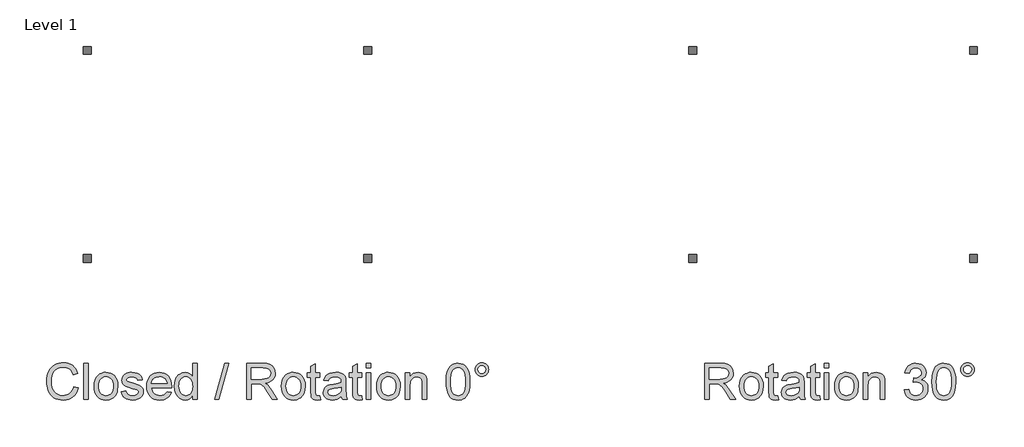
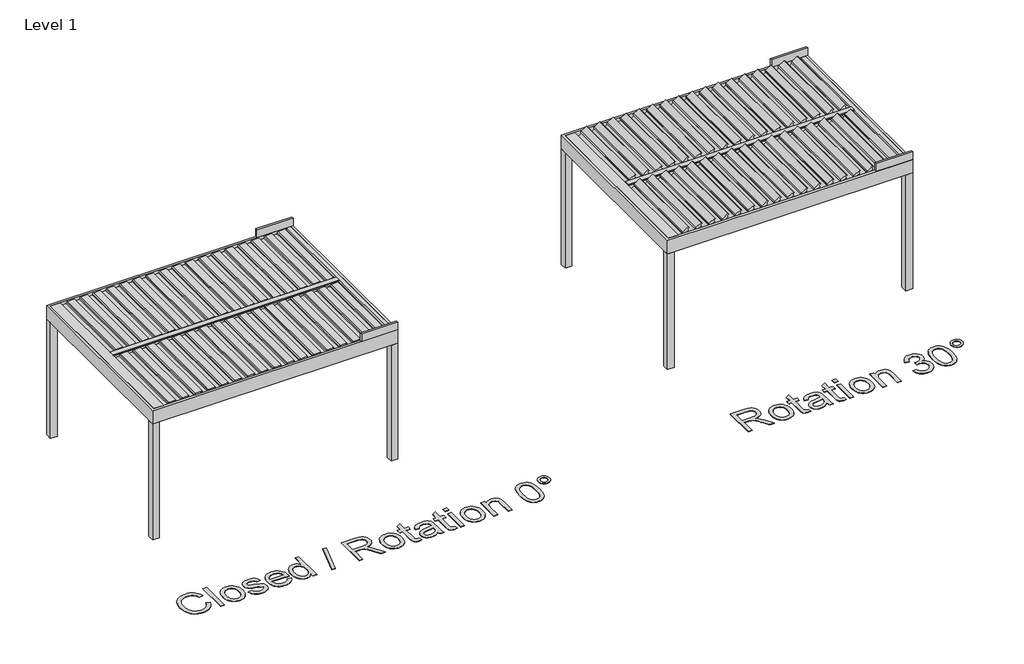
# One storey, part 34 of 47: 4 proxies.
"""IFC4 building model written with IfcOpenShell, lengths in millimetres."""

from ifc_helpers import new_model, si_unit, origin, origin_with_axes, place, context, project, spatial, polyline, outline, extrude, transform, mapped, element, save
from components import generic_models_7727c5ff, generic_models_2351d9f3

model = new_model("IFC4")

# Units and contexts
model_context = context("Model", 3, world=origin())
ifc_project = project(units=[si_unit("LENGTHUNIT", "METRE", prefix="MILLI")], contexts=[model_context])

# Site, building, storey
site = spatial("IfcSite", under=ifc_project)
building = spatial("IfcBuilding", under=site)
storey = spatial("IfcBuildingStorey", under=building, Name="Level 1", Elevation=0.0)

# Proxies
placement = place(None, origin())
generic_models_shape = generic_models_7727c5ff(model_context)
element("IfcBuildingElementProxy", 1, Name="Renson_Algarve_Single Unit With Intermediate Beam : Algarve - Single Unit With Intermediate Beam", ObjectType="Renson_Algarve_Single Unit With Intermediate Beam : Algarve - Single Unit With Intermediate Beam", at=placement, inside=storey, context=model_context, shape_type="MappedRepresentation", body=[
    mapped(generic_models_shape, transform((76532.7944478, 68278.5861401, 0.0), x_axis=(1.0, 0.0, 0.0), y_axis=(0.0, 1.0, 0.0), z_axis=(0.0, 0.0, 1.0))),
])
generic_models_2_shape = generic_models_2351d9f3(model_context)
element("IfcBuildingElementProxy", 2, Name="Renson_Algarve_Single Unit With Intermediate Beam : Algarve - Single Unit With Intermediate Beam", ObjectType="Renson_Algarve_Single Unit With Intermediate Beam : Algarve - Single Unit With Intermediate Beam", at=placement, inside=storey, context=model_context, shape_type="MappedRepresentation", body=[
    mapped(generic_models_2_shape, transform((84932.7944478, 68278.5861401, 0.0), x_axis=(1.0, 0.0, 0.0), y_axis=(0.0, 1.0, 0.0), z_axis=(0.0, 0.0, 1.0))),
])
element("IfcBuildingElementProxy", 3, Name="500mm Arial", ObjectType="500mm Arial", at=placement, inside=storey, context=model_context, shape_type="SweptSolid", body=[
    extrude(outline(polyline([(74402.351282, 64307.1315351), (74465.1364758, 64290.9447273), (74452.7127943, 64251.8994185), (74436.1657687, 64217.7821955), (74415.4953991, 64188.5930585), (74390.7016855, 64164.3320073), (74362.344115, 64145.2596251), (74330.9821749, 64131.636495), (74296.6158652, 64123.4626169), (74259.2451859, 64120.7379909), (74220.9586337, 64122.7996629), (74186.4198792, 64128.984679), (74155.6289227, 64139.293039), (74128.5857639, 64153.7247431), (74104.9186889, 64172.0651934), (74084.2559835, 64194.0997921), (74066.5976477, 64219.8285391), (74051.9436816, 64249.2514346), (74040.4358729, 64281.0962198), (74032.2160096, 64314.0906362), (74027.2840916, 64348.2346839), (74025.6401189, 64383.5283628), (74027.4986894, 64421.3972157), (74033.0744009, 64456.7675367), (74042.3672534, 64489.6393258), (74055.3772469, 64520.012583), (74071.8131414, 64547.3853027), (74091.3836972, 64571.2554792), (74114.0889141, 64591.6231126), (74139.9287921, 64608.4882028), (74168.0257795, 64621.7127941), (74197.5023244, 64631.1589308), (74228.3584267, 64636.8266128), (74260.5940865, 64638.7158401), (74296.5047342, 64636.2709577), (74329.4340049, 64628.9363104), (74359.3818985, 64616.7118983), (74386.3484152, 64599.5977213), (74409.8890308, 64578.0459677), (74429.5592212, 64552.5088259), (74445.3589865, 64522.9862958), (74457.2883266, 64489.4783774), (74394.5031328, 64474.5178429), (74384.6163042, 64499.2080898), (74372.7367814, 64520.3038229), (74358.8645645, 64537.8050424), (74342.9996534, 64551.7117483), (74325.0500778, 64562.3075161), (74304.9238669, 64569.8759218), (74282.621021, 64574.4169651), (74258.1415399, 64575.9306463), (74229.9755746, 64574.2521847), (74204.2161708, 64569.2167999), (74180.8633283, 64560.8244918), (74159.9170472, 64549.0752606), (74141.6417426, 64534.4979366), (74126.3018299, 64517.62135), (74113.8973088, 64498.445501), (74104.4281796, 64476.9703896), (74092.4260295, 64431.015797), (74088.4253128, 64383.6509901), (74093.1617935, 64325.6482622), (74107.3712355, 64275.4936835), (74118.1624407, 64253.8384632), (74131.5901336, 64235.1033062), (74147.654314, 64219.2882125), (74166.3549821, 64206.3931821), (74208.0329465, 64189.2406841), (74252.991192, 64183.5231847), (74280.2872696, 64185.4698936), (74305.3990479, 64191.3100203), (74328.3265268, 64201.0435648), (74349.0697064, 64214.670527), (74367.1380773, 64232.1295934), (74382.0411302, 64253.3594502), (74393.7788651, 64278.3600974), (74402.351282, 64307.1315351)])), origin_with_axes(), (0.0, 0.0, 1.0), 5.0),
    extrude(outline(polyline([(74543.6179681, 64128.5861401), (74543.6179681, 64630.8676909), (74606.403162, 64630.8676909), (74606.403162, 64128.5861401), (74543.6179681, 64128.5861401)])), origin_with_axes(), (0.0, 0.0, 1.0), 5.0),
    extrude(outline(polyline([(74684.8846543, 64313.0176471), (74688.2798985, 64360.788657), (74698.4656313, 64401.9531194), (74715.4418525, 64436.5110343), (74739.2085623, 64464.4624017), (74763.1362204, 64482.3276711), (74789.5470819, 64495.0885778), (74818.441147, 64502.7451219), (74849.8184155, 64505.2973032), (74884.4568046, 64502.1894668), (74915.7765915, 64492.8659574), (74943.7777763, 64477.3267753), (74968.4603589, 64455.5719202), (74988.6057303, 64428.3371562), (75002.9952812, 64396.3582474), (75011.6290118, 64359.6351936), (75014.506922, 64318.167995), (75009.4178877, 64254.7390076), (75003.0565949, 64228.7036923), (74994.1507849, 64206.4544958), (74982.8115888, 64187.2364936), (74969.1501377, 64170.2947613), (74953.1664314, 64155.6292989), (74934.86047, 64143.2401063), (74894.1328675, 64126.3635197), (74849.8184155, 64120.7379909), (74814.6741886, 64123.834331), (74783.0631618, 64133.1233514), (74754.9853349, 64148.605052), (74730.440708, 64170.2794329), (74710.5099345, 64197.7786121), (74696.2736677, 64230.7347075), (74687.7319077, 64269.1477191), (74684.8846543, 64313.0176471)]), holes=[polyline([(74747.6698481, 64313.1402744), (74749.4862655, 64282.686543), (74754.9355175, 64256.3178345), (74764.0176043, 64234.0341491), (74776.7325258, 64215.8354867), (74792.198898, 64201.6988546), (74809.535337, 64191.6012602), (74828.7418428, 64185.5427036), (74849.8184155, 64183.5231847), (74870.7876892, 64185.5541999), (74889.9175529, 64191.6472455), (74907.2080067, 64201.8023214), (74922.6590505, 64216.0194277), (74935.373972, 64234.398199), (74944.4560587, 64257.0382701), (74949.9053108, 64283.939641), (74951.7217281, 64315.1023117), (74949.8938145, 64344.5903529), (74944.4100735, 64370.2692825), (74935.2705052, 64392.1391007), (74922.4751095, 64410.1998074), (74906.9665842, 64424.3364395), (74889.6876267, 64434.4340339), (74870.6382371, 64440.4925905), (74849.8184155, 64442.5121094), (74828.7418428, 64440.5002547), (74809.535337, 64434.4646907), (74792.198898, 64424.4054174), (74776.7325258, 64410.3224348), (74764.0176043, 64392.1774218), (74754.9355175, 64369.9320574), (74749.4862655, 64343.5863416), (74747.6698481, 64313.1402744)])]), origin_with_axes(), (0.0, 0.0, 1.0), 5.0),
    extrude(outline(polyline([(75061.5958174, 64238.4602294), (75124.3810112, 64246.3083786), (75134.2831682, 64219.4529929), (75153.4436888, 64199.7099925), (75181.9852003, 64187.5698867), (75220.0303299, 64183.5231847), (75257.6156071, 64187.2326615), (75284.0417971, 64198.3610919), (75299.6767819, 64214.486586), (75304.8884435, 64233.1872541), (75299.6461251, 64249.1901209), (75283.9191698, 64261.3915404), (75219.294566, 64279.2951308), (75161.9969452, 64295.865149), (75124.7488932, 64310.0132774), (75100.8212351, 64325.4489928), (75083.4847961, 64345.881772), (75072.954174, 64370.0086995), (75069.4439666, 64396.52686), (75072.2643952, 64420.8530569), (75080.7256811, 64443.309187), (75094.0614034, 64463.0062022), (75111.5051414, 64479.0550542), (75128.8415804, 64489.1564807), (75151.4203378, 64497.633095), (75177.5246311, 64503.3812511), (75205.4376775, 64505.2973032), (75246.3032358, 64502.2162915), (75281.8345051, 64492.9732564), (75310.4066734, 64478.4725744), (75330.3949285, 64459.6186221), (75343.6386803, 64435.0165137), (75351.9773389, 64403.2713632), (75289.192145, 64395.423214), (75281.2673537, 64415.1815428), (75265.5863837, 64430.0654352), (75241.9959507, 64439.4004408), (75210.3427707, 64442.5121094), (75174.2903352, 64439.5383966), (75150.2553782, 64430.6172582), (75136.7357149, 64417.7413883), (75132.2291604, 64402.9034812), (75134.0992272, 64393.2465788), (75139.7094277, 64384.6320088), (75149.3050164, 64376.9371437), (75163.131248, 64370.7751203), (75217.2099013, 64357.4087411), (75309.3643411, 64327.8555542), (75333.7058665, 64313.7227542), (75352.1612799, 64294.3782926), (75363.795548, 64269.7608558), (75367.6736373, 64239.80913), (75363.1210977, 64208.8457287), (75349.4634786, 64179.7217375), (75327.2219463, 64154.7210902), (75296.9176669, 64136.127721), (75260.3134084, 64124.5854234), (75219.1719386, 64120.7379909), (75185.3804445, 64122.5927293), (75155.8655786, 64128.1569445), (75130.6273409, 64137.4306364), (75109.6657314, 64150.4138052), (75092.5438902, 64167.045137), (75078.8249575, 64187.2633184), (75068.5089332, 64211.0683491), (75061.5958174, 64238.4602294)])), origin_with_axes(), (0.0, 0.0, 1.0), 5.0),
    extrude(outline(polyline([(75696.560141, 64238.4602294), (75758.1190616, 64230.6120801), (75748.6805891, 64205.9563222), (75735.9388429, 64184.2282919), (75719.893823, 64165.4279891), (75700.5455293, 64149.5554139), (75678.0932313, 64136.9477913), (75652.7361984, 64127.9423466), (75624.4744305, 64122.5390798), (75593.3079277, 64120.7379909), (75554.3507573, 64123.8458273), (75519.6395582, 64133.1693367), (75489.1743305, 64148.7085189), (75462.9550741, 64170.4633739), (75441.8708372, 64197.8284294), (75426.8106681, 64230.1982129), (75417.7745666, 64267.5727243), (75414.7625327, 64309.9519638), (75417.8052234, 64353.7682422), (75426.9332954, 64392.3881875), (75442.1467487, 64425.8117996), (75463.4455834, 64454.0390785), (75489.5958619, 64476.4645518), (75519.3636467, 64492.482747), (75552.7489378, 64502.0936642), (75589.7517351, 64505.2973032), (75625.5627481, 64502.1013284), (75657.94786, 64492.5134039), (75686.9070708, 64476.5335297), (75712.4403805, 64454.1617059), (75733.2831948, 64425.9957406), (75748.1709193, 64392.6334422), (75757.103554, 64354.0748106), (75760.0810989, 64310.3198458), (75759.7132169, 64293.397274), (75477.5477266, 64293.397274), (75481.1843934, 64268.3429773), (75488.4155738, 64246.4003491), (75499.241268, 64227.5693895), (75513.6614758, 64211.8500984), (75530.8791196, 64199.4570737), (75550.0971217, 64190.6049132), (75571.3154822, 64185.2936169), (75594.534201, 64183.5231847), (75627.9501489, 64186.8034659), (75656.0931216, 64196.6443092), (75678.9631189, 64213.6588515), (75696.560141, 64238.4602294)]), holes=[polyline([(75477.5477266, 64356.1824678), (75697.295905, 64356.1824678), (75688.8039623, 64389.353161), (75672.157302, 64413.0815497), (75655.0354608, 64425.9574196), (75635.5530435, 64435.1544694), (75613.71005, 64440.6726994), (75589.5064804, 64442.5121094), (75547.1847226, 64436.6413258), (75528.7714623, 64429.3028465), (75512.1899478, 64419.0289753), (75498.2755777, 64406.2948933), (75487.8637509, 64391.5757814), (75480.9544671, 64374.8716396), (75477.5477266, 64356.1824678)])]), origin_with_axes(), (0.0, 0.0, 1.0), 5.0),
    extrude(outline(polyline([(76050.4626204, 64128.5861401), (76050.4626204, 64187.8151414), (76031.677646, 64158.468888), (76008.9226118, 64137.5072785), (75982.1975177, 64124.9303128), (75951.5023637, 64120.7379909), (75910.9127169, 64126.8080438), (75873.7566354, 64145.0182026), (75842.3027248, 64174.0962086), (75818.8195908, 64212.7698034), (75804.1962815, 64259.4754883), (75799.321845, 64312.6497651), (75803.813071, 64365.1649199), (75817.2867491, 64412.5910404), (75827.3881756, 64433.7212625), (75839.7275508, 64452.2303254), (75854.3048749, 64468.1182291), (75871.1201477, 64481.3849735), (75909.0886353, 64499.3192208), (75951.257109, 64505.2973032), (75981.9752556, 64501.020675), (76009.1372096, 64488.1907904), (76032.1604911, 64468.5244321), (76050.4626204, 64443.7383827), (76050.4626204, 64630.8676909), (76113.2478142, 64630.8676909), (76113.2478142, 64128.5861401), (76050.4626204, 64128.5861401)]), holes=[polyline([(75862.1070389, 64312.8950197), (75863.877471, 64282.4489525), (75869.1887673, 64256.1032367), (75878.0409278, 64233.8578723), (75890.4339525, 64215.7128593), (75905.2335386, 64201.6298767), (75921.3053833, 64191.5706034), (75938.6494865, 64185.5350394), (75957.2658483, 64183.5231847), (75975.9703485, 64185.4430689), (75993.2109849, 64191.2027214), (76008.9877575, 64200.8021422), (76023.3006664, 64214.2413313), (76035.1840213, 64231.6275877), (76043.6721319, 64253.0682103), (76048.7649983, 64278.5631989), (76050.4626204, 64308.1125538), (76048.7343414, 64340.509162), (76043.5495046, 64368.2919168), (76034.9081098, 64391.4608183), (76022.8101571, 64410.0158664), (76008.1830157, 64424.2329727), (75991.9540547, 64434.3880486), (75974.1232743, 64440.4810942), (75954.6906743, 64442.5121094), (75935.7064305, 64440.5615684), (75918.3623273, 64434.7099454), (75902.6583646, 64424.9572404), (75888.5945425, 64411.3034534), (75877.0062597, 64393.4496804), (75868.7289148, 64371.097017), (75863.7625078, 64344.2454635), (75862.1070389, 64312.8950197)])]), origin_with_axes(), (0.0, 0.0, 1.0), 5.0),
    extrude(outline(polyline([(76356.5404404, 64128.5861401), (76497.8071265, 64630.8676909), (76554.4609538, 64630.8676909), (76413.1942676, 64128.5861401), (76356.5404404, 64128.5861401)])), origin_with_axes(), (0.0, 0.0, 1.0), 5.0),
    extrude(outline(polyline([(76803.8849465, 64128.5861401), (76803.8849465, 64630.8676909), (77020.322187, 64630.8676909), (77078.4935275, 64627.4801108), (77120.8152854, 64617.3173707), (77151.7480298, 64598.555389), (77175.75233, 64569.370084), (77191.1573885, 64533.1796927), (77196.292408, 64493.402452), (77194.1655903, 64467.6047271), (77187.7851369, 64443.9223237), (77177.151048, 64422.3552417), (77162.2633235, 64402.9034812), (77142.9303582, 64386.187843), (77118.960547, 64372.8291281), (77090.3538897, 64362.8273364), (77057.1103865, 64356.1824678), (77077.8037488, 64342.6628045), (77092.7949401, 64329.3270822), (77143.6852827, 64264.7024784), (77227.4397503, 64128.5861401), (77154.4764879, 64128.5861401), (77089.1161201, 64232.6967448), (77041.9045974, 64301.6133052), (77024.3535605, 64321.7088592), (77008.7339042, 64334.1708618), (76978.8741489, 64346.1270266), (76942.4538314, 64348.3343186), (76866.6701404, 64348.3343186), (76866.6701404, 64128.5861401), (76803.8849465, 64128.5861401)]), holes=[polyline([(76866.6701404, 64411.1195124), (77007.2010625, 64411.1195124), (77047.5607831, 64413.3421328), (77078.8767379, 64420.009994), (77102.4518424, 64431.56762), (77119.589012, 64448.4595349), (77130.0276637, 64468.8923141), (77133.5072142, 64491.0725327), (77131.8479131, 64507.129049), (77126.8700099, 64521.6987088), (77118.5735045, 64534.7815123), (77106.9583969, 64546.3774593), (77091.7564398, 64555.8734133), (77072.6993861, 64562.6562376), (77023.0199883, 64568.082497), (76866.6701404, 64568.082497), (76866.6701404, 64411.1195124)])]), origin_with_axes(), (0.0, 0.0, 1.0), 5.0),
    extrude(outline(polyline([(77282.6220496, 64313.0176471), (77286.0172938, 64360.788657), (77296.2030266, 64401.9531194), (77313.1792478, 64436.5110343), (77336.9459575, 64464.4624017), (77360.8736156, 64482.3276711), (77387.2844772, 64495.0885778), (77416.1785422, 64502.7451219), (77447.5558107, 64505.2973032), (77482.1941999, 64502.1894668), (77513.5139868, 64492.8659574), (77541.5151716, 64477.3267753), (77566.1977542, 64455.5719202), (77586.3431255, 64428.3371562), (77600.7326765, 64396.3582474), (77609.3664071, 64359.6351936), (77612.2443173, 64318.167995), (77607.155283, 64254.7390076), (77600.7939902, 64228.7036923), (77591.8881802, 64206.4544958), (77580.5489841, 64187.2364936), (77566.8875329, 64170.2947613), (77550.9038267, 64155.6292989), (77532.5978653, 64143.2401063), (77491.8702627, 64126.3635197), (77447.5558107, 64120.7379909), (77412.4115839, 64123.834331), (77380.800557, 64133.1233514), (77352.7227302, 64148.605052), (77328.1781033, 64170.2794329), (77308.2473298, 64197.7786121), (77294.011063, 64230.7347075), (77285.4693029, 64269.1477191), (77282.6220496, 64313.0176471)]), holes=[polyline([(77345.4072434, 64313.1402744), (77347.2236608, 64282.686543), (77352.6729128, 64256.3178345), (77361.7549996, 64234.0341491), (77374.469921, 64215.8354867), (77389.9362932, 64201.6988546), (77407.2727323, 64191.6012602), (77426.4792381, 64185.5427036), (77447.5558107, 64183.5231847), (77468.5250845, 64185.5541999), (77487.6549482, 64191.6472455), (77504.945402, 64201.8023214), (77520.3964458, 64216.0194277), (77533.1113672, 64234.398199), (77542.193454, 64257.0382701), (77547.6427061, 64283.939641), (77549.4591234, 64315.1023117), (77547.6312097, 64344.5903529), (77542.1474688, 64370.2692825), (77533.0079004, 64392.1391007), (77520.2125048, 64410.1998074), (77504.7039794, 64424.3364395), (77487.425022, 64434.4340339), (77468.3756324, 64440.4925905), (77447.5558107, 64442.5121094), (77426.4792381, 64440.5002547), (77407.2727323, 64434.4646907), (77389.9362932, 64424.4054174), (77374.469921, 64410.3224348), (77361.7549996, 64392.1774218), (77352.6729128, 64369.9320574), (77347.2236608, 64343.5863416), (77345.4072434, 64313.1402744)])]), origin_with_axes(), (0.0, 0.0, 1.0), 5.0),
    extrude(outline(polyline([(77816.2961972, 64180.9480108), (77824.1443465, 64126.7467302), (77777.1780784, 64120.7379909), (77747.0424116, 64123.3438217), (77724.5709531, 64131.1613141), (77708.6907137, 64143.2094494), (77698.3287041, 64158.5072091), (77692.6265332, 64184.7801149), (77690.7258096, 64229.7536888), (77690.7258096, 64434.6639601), (77643.6369142, 64434.6639601), (77643.6369142, 64497.449154), (77690.7258096, 64497.449154), (77690.7258096, 64587.0897335), (77753.5110034, 64624.0005603), (77753.5110034, 64497.449154), (77816.2961972, 64497.449154), (77816.2961972, 64434.6639601), (77753.5110034, 64434.6639601), (77753.5110034, 64231.5930988), (77756.8219414, 64199.2194832), (77767.5518329, 64187.7538277), (77788.9503023, 64183.5231847), (77816.2961972, 64180.9480108)])), origin_with_axes(), (0.0, 0.0, 1.0), 5.0),
    extrude(outline(polyline([(78114.525868, 64175.6750355), (78084.528157, 64149.9539527), (78053.6413978, 64133.1233514), (78021.1604833, 64123.834331), (77986.3803063, 64120.7379909), (77958.4251068, 64122.6003935), (77933.9111368, 64128.1876013), (77912.8383962, 64137.4996143), (77895.2068852, 64150.5364325), (77881.284851, 64166.4703214), (77871.3405408, 64184.4735466), (77865.3739547, 64204.5461079), (77863.3850926, 64226.6880055), (77866.3894623, 64252.7156567), (77875.4025711, 64276.3520749), (77889.3054449, 64296.5855846), (77906.9791091, 64312.4045104), (77927.7491134, 64324.3606752), (77950.9410075, 64333.0059021), (78005.2649154, 64342.4482067), (78069.4603236, 64352.3810205), (78114.157986, 64364.030617), (78114.525868, 64378.0101329), (78110.2032546, 64406.0304782), (78097.2354142, 64424.3632643), (78084.160275, 64432.303384), (78068.2340503, 64437.9748981), (78027.8283445, 64442.5121094), (77990.4270083, 64439.4924113), (77964.3073866, 64430.4333172), (77946.4957667, 64413.679358), (77934.0184357, 64387.5750647), (77871.2332419, 64395.423214), (77882.131746, 64429.7588669), (77898.3951958, 64456.7368798), (77921.5411047, 64477.3689284), (77953.0869858, 64492.666688), (77991.66861, 64502.1396494), (78035.9217484, 64505.2973032), (78078.3661336, 64502.5075314), (78112.0120077, 64494.138216), (78137.3805369, 64481.5535861), (78154.9928875, 64466.1178707), (78166.6731408, 64447.0339922), (78174.2453785, 64423.5048729), (78177.3110618, 64368.5678283), (78177.3110618, 64290.454218), (78180.4993725, 64181.3772064), (78185.2205247, 64154.4145219), (78193.0073603, 64128.5861401), (78130.2221665, 64128.5861401), (78120.1667253, 64150.4138052), (78114.525868, 64175.6750355)]), holes=[polyline([(78114.525868, 64301.2454232), (78072.3420659, 64290.7914432), (78013.235692, 64281.9929321), (77959.2183524, 64271.8148636), (77945.1621945, 64264.8557625), (77934.7541997, 64255.2601738), (77928.3162648, 64243.7638615), (77926.1702865, 64231.1025895), (77930.8454535, 64212.4325782), (77944.8709546, 64197.1348186), (77967.9402213, 64186.9260932), (77999.7466855, 64183.5231847), (78033.4692017, 64187.2786468), (78063.2676433, 64198.5450329), (78087.4252277, 64215.1457079), (78104.2251721, 64234.9040367), (78111.6747825, 64255.2601738), (78114.157986, 64283.4644601), (78114.525868, 64301.2454232)])]), origin_with_axes(), (0.0, 0.0, 1.0), 5.0),
    extrude(outline(polyline([(78397.0592403, 64180.9480108), (78404.9073895, 64126.7467302), (78357.9411215, 64120.7379909), (78327.8054547, 64123.3438217), (78305.3339962, 64131.1613141), (78289.4537567, 64143.2094494), (78279.0917472, 64158.5072091), (78273.3895762, 64184.7801149), (78271.4888526, 64229.7536888), (78271.4888526, 64434.6639601), (78224.3999572, 64434.6639601), (78224.3999572, 64497.449154), (78271.4888526, 64497.449154), (78271.4888526, 64587.0897335), (78334.2740465, 64624.0005603), (78334.2740465, 64497.449154), (78397.0592403, 64497.449154), (78397.0592403, 64434.6639601), (78334.2740465, 64434.6639601), (78334.2740465, 64231.5930988), (78337.5849844, 64199.2194832), (78348.3148759, 64187.7538277), (78369.7133453, 64183.5231847), (78397.0592403, 64180.9480108)])), origin_with_axes(), (0.0, 0.0, 1.0), 5.0),
    extrude(outline(polyline([(78459.8444341, 64568.082497), (78459.8444341, 64630.8676909), (78522.629628, 64630.8676909), (78522.629628, 64568.082497), (78459.8444341, 64568.082497)])), origin_with_axes(), (0.0, 0.0, 1.0), 5.0),
    extrude(outline(polyline([(78459.8444341, 64128.5861401), (78459.8444341, 64497.449154), (78522.629628, 64497.449154), (78522.629628, 64128.5861401), (78459.8444341, 64128.5861401)])), origin_with_axes(), (0.0, 0.0, 1.0), 5.0),
    extrude(outline(polyline([(78601.1111203, 64313.0176471), (78604.5063645, 64360.788657), (78614.6920973, 64401.9531194), (78631.6683185, 64436.5110343), (78655.4350282, 64464.4624017), (78679.3626863, 64482.3276711), (78705.7735479, 64495.0885778), (78734.667613, 64502.7451219), (78766.0448815, 64505.2973032), (78800.6832706, 64502.1894668), (78832.0030575, 64492.8659574), (78860.0042423, 64477.3267753), (78884.6868249, 64455.5719202), (78904.8321962, 64428.3371562), (78919.2217472, 64396.3582474), (78927.8554778, 64359.6351936), (78930.733388, 64318.167995), (78925.6443537, 64254.7390076), (78919.2830609, 64228.7036923), (78910.3772509, 64206.4544958), (78899.0380548, 64187.2364936), (78885.3766036, 64170.2947613), (78869.3928974, 64155.6292989), (78851.086936, 64143.2401063), (78810.3593335, 64126.3635197), (78766.0448815, 64120.7379909), (78730.9006546, 64123.834331), (78699.2896277, 64133.1233514), (78671.2118009, 64148.605052), (78646.667174, 64170.2794329), (78626.7364005, 64197.7786121), (78612.5001337, 64230.7347075), (78603.9583736, 64269.1477191), (78601.1111203, 64313.0176471)]), holes=[polyline([(78663.8963141, 64313.1402744), (78665.7127315, 64282.686543), (78671.1619835, 64256.3178345), (78680.2440703, 64234.0341491), (78692.9589917, 64215.8354867), (78708.425364, 64201.6988546), (78725.761803, 64191.6012602), (78744.9683088, 64185.5427036), (78766.0448815, 64183.5231847), (78787.0141552, 64185.5541999), (78806.1440189, 64191.6472455), (78823.4344727, 64201.8023214), (78838.8855165, 64216.0194277), (78851.600438, 64234.398199), (78860.6825247, 64257.0382701), (78866.1317768, 64283.939641), (78867.9481941, 64315.1023117), (78866.1202805, 64344.5903529), (78860.6365395, 64370.2692825), (78851.4969711, 64392.1391007), (78838.7015755, 64410.1998074), (78823.1930501, 64424.3364395), (78805.9140927, 64434.4340339), (78786.8647031, 64440.4925905), (78766.0448815, 64442.5121094), (78744.9683088, 64440.5002547), (78725.761803, 64434.4646907), (78708.425364, 64424.4054174), (78692.9589917, 64410.3224348), (78680.2440703, 64392.1774218), (78671.1619835, 64369.9320574), (78665.7127315, 64343.5863416), (78663.8963141, 64313.1402744)])]), origin_with_axes(), (0.0, 0.0, 1.0), 5.0),
    extrude(outline(polyline([(79001.366731, 64128.5861401), (79001.366731, 64497.449154), (79064.1519249, 64497.449154), (79064.1519249, 64445.9456746), (79085.9642615, 64471.9120121), (79112.1605253, 64490.4593961), (79142.7407161, 64501.5878264), (79177.7048341, 64505.2973032), (79208.6529069, 64502.308262), (79236.9951489, 64493.3411384), (79260.6315671, 64479.5149067), (79277.4621684, 64461.9485414), (79288.8818387, 64440.6880278), (79296.2854638, 64415.779351), (79299.5964018, 64355.0788218), (79299.5964018, 64128.5861401), (79236.811208, 64128.5861401), (79236.811208, 64346.6175359), (79235.0024548, 64379.083122), (79229.5761954, 64402.1677172), (79219.5667394, 64418.7070786), (79204.0083967, 64431.5369632), (79184.0661269, 64439.7683228), (79160.9048896, 64442.5121094), (79141.8401716, 64440.9716035), (79124.1320185, 64436.3500859), (79107.7804302, 64428.6475567), (79092.7854068, 64417.8640157), (79080.2582585, 64402.7731897), (79071.3102954, 64382.1488053), (79065.9415175, 64355.9908626), (79064.1519249, 64324.2993616), (79064.1519249, 64128.5861401), (79001.366731, 64128.5861401)])), origin_with_axes(), (0.0, 0.0, 1.0), 5.0),
    extrude(outline(polyline([(79566.4334756, 64375.6802136), (79571.047329, 64456.0777579), (79584.8888891, 64520.196524), (79595.2355702, 64546.3966198), (79607.8202001, 64569.0175304), (79622.6427788, 64588.0592558), (79639.7033063, 64603.5217959), (79659.0592642, 64615.485625), (79680.768134, 64624.0312171), (79704.8299158, 64629.1585724), (79731.2446095, 64630.8676909), (79769.9335326, 64626.8209889), (79804.5757538, 64614.6808831), (79833.546461, 64594.9225543), (79855.2208418, 64568.0211834), (79871.5915906, 64534.2066967), (79884.6514015, 64493.7090203), (79893.2046578, 64442.2821831), (79896.0557433, 64375.6802136), (79891.4878752, 64295.7425217), (79877.7842709, 64231.7770398), (79867.518064, 64205.5654476), (79854.9909156, 64182.9100481), (79840.2028258, 64163.8108412), (79823.1537946, 64148.2678269), (79803.7748441, 64136.2235236), (79781.9969964, 64127.6204499), (79757.8202515, 64122.4586057), (79731.2446095, 64120.7379909), (79696.6637019, 64123.7270321), (79666.006869, 64132.6941557), (79639.2741107, 64147.6393618), (79616.465427, 64168.5626503), (79594.5764483, 64206.3855179), (79578.9414635, 64253.5127343), (79569.5604726, 64309.9442995), (79566.4334756, 64375.6802136)]), holes=[polyline([(79629.2186695, 64375.8028409), (79631.0580794, 64321.222182), (79636.5763094, 64277.0418536), (79645.7733593, 64243.2618558), (79658.6492291, 64219.8821886), (79674.2229002, 64203.9751244), (79691.513354, 64192.6129357), (79710.5205904, 64185.7956225), (79731.2446095, 64183.5231847), (79751.9686285, 64185.8032867), (79770.9758649, 64192.6435925), (79788.2663187, 64204.0441023), (79803.8399899, 64220.0048159), (79816.7158597, 64243.4228042), (79825.9129096, 64277.1951378), (79831.4311395, 64321.3218167), (79833.2705495, 64375.8028409), (79831.4924532, 64428.9387966), (79826.1581642, 64472.3412078), (79817.2676827, 64506.0100746), (79804.8210085, 64529.9453969), (79789.5079205, 64546.6303782), (79772.0181973, 64558.548222), (79752.3518389, 64565.6989283), (79730.5088455, 64568.082497), (79709.8921253, 64565.982504), (79691.2067857, 64559.6825248), (79674.4528265, 64549.1825595), (79659.6302477, 64534.4826081), (79646.3251822, 64508.4243002), (79636.821564, 64473.2915696), (79631.1193931, 64429.0844165), (79629.2186695, 64375.8028409)])]), origin_with_axes(), (0.0, 0.0, 1.0), 5.0),
    extrude(outline(polyline([(79966.6890864, 64544.6606767), (79968.4173653, 64563.4916363), (79973.6022022, 64580.8663964), (79982.243597, 64596.7849569), (79994.3415497, 64611.2473178), (80008.8613922, 64623.2647963), (80024.7684564, 64631.8487095), (80042.0627422, 64636.9990575), (80060.7442498, 64638.7158401), (80079.6825084, 64636.9990575), (80097.1339105, 64631.8487095), (80113.0984563, 64623.2647963), (80127.5761456, 64611.2473178), (80139.5936241, 64596.7849569), (80148.1775373, 64580.8663964), (80153.3278853, 64563.4916363), (80155.0446679, 64544.6606767), (80153.316389, 64525.8718702), (80148.1315521, 64508.5009422), (80139.4901573, 64492.5478928), (80127.3922046, 64478.0127219), (80112.8570337, 64465.9147692), (80096.9039843, 64457.2733744), (80079.5330563, 64452.0885375), (80060.7442498, 64450.3602586), (80042.0627422, 64452.0770412), (80024.7684564, 64457.2273892), (80008.8613922, 64465.8113024), (79994.3415497, 64477.8287809), (79982.243597, 64492.3064702), (79973.6022022, 64508.271016), (79968.4173653, 64525.7224181), (79966.6890864, 64544.6606767)]), holes=[polyline([(80005.9298325, 64544.5380493), (80009.9612061, 64523.4154915), (80022.0553267, 64505.6651852), (80039.8516182, 64493.6170498), (80060.9895045, 64489.6010047), (80081.9434498, 64493.6170498), (80099.6784276, 64505.6651852), (80111.7725482, 64523.4154915), (80115.8039218, 64544.5380493), (80111.7725482, 64565.6606072), (80099.6784276, 64583.4109135), (80081.9434498, 64595.4590488), (80060.9895045, 64599.475094), (80039.8516182, 64595.4590488), (80022.0553267, 64583.4109135), (80009.9612061, 64565.6606072), (80005.9298325, 64544.5380493)])]), origin_with_axes(), (0.0, 0.0, 1.0), 5.0),
])
element("IfcBuildingElementProxy", 4, Name="500mm Arial", ObjectType="500mm Arial", at=placement, inside=storey, context=model_context, shape_type="SweptSolid", body=[
    extrude(outline(polyline([(83154.5980946, 64128.5861401), (83154.5980946, 64630.8676909), (83371.0353351, 64630.8676909), (83429.2066756, 64627.4801108), (83471.5284335, 64617.3173707), (83502.4611779, 64598.555389), (83526.4654781, 64569.370084), (83541.8705366, 64533.1796927), (83547.0055561, 64493.402452), (83544.8787383, 64467.6047271), (83538.498285, 64443.9223237), (83527.8641961, 64422.3552417), (83512.9764716, 64402.9034812), (83493.6435063, 64386.187843), (83469.6736951, 64372.8291281), (83441.0670378, 64362.8273364), (83407.8235346, 64356.1824678), (83428.5168968, 64342.6628045), (83443.5080882, 64329.3270822), (83494.3984308, 64264.7024784), (83578.1528984, 64128.5861401), (83505.189636, 64128.5861401), (83439.8292682, 64232.6967448), (83392.6177455, 64301.6133052), (83375.0667086, 64321.7088592), (83359.4470523, 64334.1708618), (83329.587297, 64346.1270266), (83293.1669795, 64348.3343186), (83217.3832884, 64348.3343186), (83217.3832884, 64128.5861401), (83154.5980946, 64128.5861401)]), holes=[polyline([(83217.3832884, 64411.1195124), (83357.9142106, 64411.1195124), (83398.2739312, 64413.3421328), (83429.589886, 64420.009994), (83453.1649905, 64431.56762), (83470.3021601, 64448.4595349), (83480.7408117, 64468.8923141), (83484.2203623, 64491.0725327), (83482.5610612, 64507.129049), (83477.583158, 64521.6987088), (83469.2866525, 64534.7815123), (83457.671545, 64546.3774593), (83442.4695879, 64555.8734133), (83423.4125342, 64562.6562376), (83373.7331364, 64568.082497), (83217.3832884, 64568.082497), (83217.3832884, 64411.1195124)])]), origin_with_axes(), (0.0, 0.0, 1.0), 5.0),
    extrude(outline(polyline([(83633.3351977, 64313.0176471), (83636.7304419, 64360.788657), (83646.9161747, 64401.9531194), (83663.8923959, 64436.5110343), (83687.6591056, 64464.4624017), (83711.5867637, 64482.3276711), (83737.9976253, 64495.0885778), (83766.8916903, 64502.7451219), (83798.2689588, 64505.2973032), (83832.9073479, 64502.1894668), (83864.2271349, 64492.8659574), (83892.2283197, 64477.3267753), (83916.9109023, 64455.5719202), (83937.0562736, 64428.3371562), (83951.4458246, 64396.3582474), (83960.0795551, 64359.6351936), (83962.9574653, 64318.167995), (83957.8684311, 64254.7390076), (83951.5071382, 64228.7036923), (83942.6013283, 64206.4544958), (83931.2621322, 64187.2364936), (83917.600681, 64170.2947613), (83901.6169747, 64155.6292989), (83883.3110134, 64143.2401063), (83842.5834108, 64126.3635197), (83798.2689588, 64120.7379909), (83763.124732, 64123.834331), (83731.5137051, 64133.1233514), (83703.4358783, 64148.605052), (83678.8912514, 64170.2794329), (83658.9604779, 64197.7786121), (83644.7242111, 64230.7347075), (83636.182451, 64269.1477191), (83633.3351977, 64313.0176471)]), holes=[polyline([(83696.1203915, 64313.1402744), (83697.9368089, 64282.686543), (83703.3860609, 64256.3178345), (83712.4681477, 64234.0341491), (83725.1830691, 64215.8354867), (83740.6494413, 64201.6988546), (83757.9858804, 64191.6012602), (83777.1923862, 64185.5427036), (83798.2689588, 64183.5231847), (83819.2382326, 64185.5541999), (83838.3680963, 64191.6472455), (83855.6585501, 64201.8023214), (83871.1095939, 64216.0194277), (83883.8245153, 64234.398199), (83892.9066021, 64257.0382701), (83898.3558541, 64283.939641), (83900.1722715, 64315.1023117), (83898.3443578, 64344.5903529), (83892.8606168, 64370.2692825), (83883.7210485, 64392.1391007), (83870.9256529, 64410.1998074), (83855.4171275, 64424.3364395), (83838.1381701, 64434.4340339), (83819.0887805, 64440.4925905), (83798.2689588, 64442.5121094), (83777.1923862, 64440.5002547), (83757.9858804, 64434.4646907), (83740.6494413, 64424.4054174), (83725.1830691, 64410.3224348), (83712.4681477, 64392.1774218), (83703.3860609, 64369.9320574), (83697.9368089, 64343.5863416), (83696.1203915, 64313.1402744)])]), origin_with_axes(), (0.0, 0.0, 1.0), 5.0),
    extrude(outline(polyline([(84167.0093453, 64180.9480108), (84174.8574946, 64126.7467302), (84127.8912265, 64120.7379909), (84097.7555597, 64123.3438217), (84075.2841012, 64131.1613141), (84059.4038617, 64143.2094494), (84049.0418522, 64158.5072091), (84043.3396813, 64184.7801149), (84041.4389576, 64229.7536888), (84041.4389576, 64434.6639601), (83994.3500623, 64434.6639601), (83994.3500623, 64497.449154), (84041.4389576, 64497.449154), (84041.4389576, 64587.0897335), (84104.2241515, 64624.0005603), (84104.2241515, 64497.449154), (84167.0093453, 64497.449154), (84167.0093453, 64434.6639601), (84104.2241515, 64434.6639601), (84104.2241515, 64231.5930988), (84107.5350894, 64199.2194832), (84118.264981, 64187.7538277), (84139.6634504, 64183.5231847), (84167.0093453, 64180.9480108)])), origin_with_axes(), (0.0, 0.0, 1.0), 5.0),
    extrude(outline(polyline([(84465.2390161, 64175.6750355), (84435.2413051, 64149.9539527), (84404.3545459, 64133.1233514), (84371.8736314, 64123.834331), (84337.0934544, 64120.7379909), (84309.1382549, 64122.6003935), (84284.6242849, 64128.1876013), (84263.5515443, 64137.4996143), (84245.9200333, 64150.5364325), (84231.997999, 64166.4703214), (84222.0536889, 64184.4735466), (84216.0871028, 64204.5461079), (84214.0982407, 64226.6880055), (84217.1026103, 64252.7156567), (84226.1157192, 64276.3520749), (84240.018593, 64296.5855846), (84257.6922571, 64312.4045104), (84278.4622615, 64324.3606752), (84301.6541556, 64333.0059021), (84355.9780635, 64342.4482067), (84420.1734717, 64352.3810205), (84464.8711341, 64364.030617), (84465.2390161, 64378.0101329), (84460.9164026, 64406.0304782), (84447.9485623, 64424.3632643), (84434.8734231, 64432.303384), (84418.9471984, 64437.9748981), (84378.5414926, 64442.5121094), (84341.1401564, 64439.4924113), (84315.0205347, 64430.4333172), (84297.2089148, 64413.679358), (84284.7315838, 64387.5750647), (84221.9463899, 64395.423214), (84232.8448941, 64429.7588669), (84249.1083439, 64456.7368798), (84272.2542528, 64477.3689284), (84303.8001339, 64492.666688), (84342.3817581, 64502.1396494), (84386.6348965, 64505.2973032), (84429.0792816, 64502.5075314), (84462.7251558, 64494.138216), (84488.093685, 64481.5535861), (84505.7060356, 64466.1178707), (84517.3862889, 64447.0339922), (84524.9585266, 64423.5048729), (84528.0242099, 64368.5678283), (84528.0242099, 64290.454218), (84531.2125206, 64181.3772064), (84535.9336728, 64154.4145219), (84543.7205084, 64128.5861401), (84480.9353145, 64128.5861401), (84470.8798733, 64150.4138052), (84465.2390161, 64175.6750355)]), holes=[polyline([(84465.2390161, 64301.2454232), (84423.055214, 64290.7914432), (84363.9488401, 64281.9929321), (84309.9315005, 64271.8148636), (84295.8753426, 64264.8557625), (84285.4673478, 64255.2601738), (84279.0294129, 64243.7638615), (84276.8834346, 64231.1025895), (84281.5586016, 64212.4325782), (84295.5841026, 64197.1348186), (84318.6533694, 64186.9260932), (84350.4598336, 64183.5231847), (84384.1823498, 64187.2786468), (84413.9807914, 64198.5450329), (84438.1383758, 64215.1457079), (84454.9383202, 64234.9040367), (84462.3879306, 64255.2601738), (84464.8711341, 64283.4644601), (84465.2390161, 64301.2454232)])]), origin_with_axes(), (0.0, 0.0, 1.0), 5.0),
    extrude(outline(polyline([(84747.7723884, 64180.9480108), (84755.6205376, 64126.7467302), (84708.6542696, 64120.7379909), (84678.5186028, 64123.3438217), (84656.0471443, 64131.1613141), (84640.1669048, 64143.2094494), (84629.8048953, 64158.5072091), (84624.1027243, 64184.7801149), (84622.2020007, 64229.7536888), (84622.2020007, 64434.6639601), (84575.1131053, 64434.6639601), (84575.1131053, 64497.449154), (84622.2020007, 64497.449154), (84622.2020007, 64587.0897335), (84684.9871945, 64624.0005603), (84684.9871945, 64497.449154), (84747.7723884, 64497.449154), (84747.7723884, 64434.6639601), (84684.9871945, 64434.6639601), (84684.9871945, 64231.5930988), (84688.2981325, 64199.2194832), (84699.028024, 64187.7538277), (84720.4264934, 64183.5231847), (84747.7723884, 64180.9480108)])), origin_with_axes(), (0.0, 0.0, 1.0), 5.0),
    extrude(outline(polyline([(84810.5575822, 64128.5861401), (84810.5575822, 64497.449154), (84873.3427761, 64497.449154), (84873.3427761, 64128.5861401), (84810.5575822, 64128.5861401)])), origin_with_axes(), (0.0, 0.0, 1.0), 5.0),
    extrude(outline(polyline([(84810.5575822, 64568.082497), (84810.5575822, 64630.8676909), (84873.3427761, 64630.8676909), (84873.3427761, 64568.082497), (84810.5575822, 64568.082497)])), origin_with_axes(), (0.0, 0.0, 1.0), 5.0),
    extrude(outline(polyline([(84951.8242684, 64313.0176471), (84955.2195126, 64360.788657), (84965.4052454, 64401.9531194), (84982.3814666, 64436.5110343), (85006.1481763, 64464.4624017), (85030.0758344, 64482.3276711), (85056.486696, 64495.0885778), (85085.380761, 64502.7451219), (85116.7580295, 64505.2973032), (85151.3964187, 64502.1894668), (85182.7162056, 64492.8659574), (85210.7173904, 64477.3267753), (85235.399973, 64455.5719202), (85255.5453443, 64428.3371562), (85269.9348953, 64396.3582474), (85278.5686259, 64359.6351936), (85281.4465361, 64318.167995), (85276.3575018, 64254.7390076), (85269.996209, 64228.7036923), (85261.090399, 64206.4544958), (85249.7512029, 64187.2364936), (85236.0897517, 64170.2947613), (85220.1060455, 64155.6292989), (85201.8000841, 64143.2401063), (85161.0724815, 64126.3635197), (85116.7580295, 64120.7379909), (85081.6138027, 64123.834331), (85050.0027758, 64133.1233514), (85021.924949, 64148.605052), (84997.3803221, 64170.2794329), (84977.4495486, 64197.7786121), (84963.2132818, 64230.7347075), (84954.6715217, 64269.1477191), (84951.8242684, 64313.0176471)]), holes=[polyline([(85014.6094622, 64313.1402744), (85016.4258796, 64282.686543), (85021.8751316, 64256.3178345), (85030.9572184, 64234.0341491), (85043.6721398, 64215.8354867), (85059.1385121, 64201.6988546), (85076.4749511, 64191.6012602), (85095.6814569, 64185.5427036), (85116.7580295, 64183.5231847), (85137.7273033, 64185.5541999), (85156.857167, 64191.6472455), (85174.1476208, 64201.8023214), (85189.5986646, 64216.0194277), (85202.3135861, 64234.398199), (85211.3956728, 64257.0382701), (85216.8449249, 64283.939641), (85218.6613422, 64315.1023117), (85216.8334285, 64344.5903529), (85211.3496876, 64370.2692825), (85202.2101192, 64392.1391007), (85189.4147236, 64410.1998074), (85173.9061982, 64424.3364395), (85156.6272408, 64434.4340339), (85137.5778512, 64440.4925905), (85116.7580295, 64442.5121094), (85095.6814569, 64440.5002547), (85076.4749511, 64434.4646907), (85059.1385121, 64424.4054174), (85043.6721398, 64410.3224348), (85030.9572184, 64392.1774218), (85021.8751316, 64369.9320574), (85016.4258796, 64343.5863416), (85014.6094622, 64313.1402744)])]), origin_with_axes(), (0.0, 0.0, 1.0), 5.0),
    extrude(outline(polyline([(85352.0798791, 64128.5861401), (85352.0798791, 64497.449154), (85414.865073, 64497.449154), (85414.865073, 64445.9456746), (85436.6774096, 64471.9120121), (85462.8736733, 64490.4593961), (85493.4538642, 64501.5878264), (85528.4179821, 64505.2973032), (85559.366055, 64502.308262), (85587.708297, 64493.3411384), (85611.3447152, 64479.5149067), (85628.1753165, 64461.9485414), (85639.5949868, 64440.6880278), (85646.9986119, 64415.779351), (85650.3095499, 64355.0788218), (85650.3095499, 64128.5861401), (85587.524356, 64128.5861401), (85587.524356, 64346.6175359), (85585.7156029, 64379.083122), (85580.2893435, 64402.1677172), (85570.2798875, 64418.7070786), (85554.7215448, 64431.5369632), (85534.779275, 64439.7683228), (85511.6180377, 64442.5121094), (85492.5533197, 64440.9716035), (85474.8451666, 64436.3500859), (85458.4935783, 64428.6475567), (85443.4985549, 64417.8640157), (85430.9714066, 64402.7731897), (85422.0234435, 64382.1488053), (85416.6546656, 64355.9908626), (85414.865073, 64324.2993616), (85414.865073, 64128.5861401), (85352.0798791, 64128.5861401)])), origin_with_axes(), (0.0, 0.0, 1.0), 5.0),
    extrude(outline(polyline([(85917.1466237, 64262.0046771), (85979.9318176, 64269.8528263), (85993.9879755, 64230.3974823), (86003.4647689, 64215.4752689), (86014.5740388, 64203.7566945), (86027.5687038, 64194.904534), (86042.701683, 64188.5815622), (86079.3825836, 64183.5231847), (86102.1299536, 64185.26296), (86122.424777, 64190.4822858), (86140.2670538, 64199.1811622), (86155.6567839, 64211.359589), (86168.0498086, 64226.1055257), (86176.9019691, 64242.5069313), (86182.2132655, 64260.5638059), (86183.9836976, 64280.2761495), (86182.2285939, 64299.0496275), (86176.9632828, 64316.1293156), (86168.1877644, 64331.5152136), (86155.9020386, 64345.2073216), (86140.9108473, 64356.446883), (86124.0189323, 64364.4751411), (86105.2262938, 64369.292096), (86084.5329315, 64370.8977476), (86040.5097194, 64364.030617), (86047.4994773, 64426.8158109), (86057.5549185, 64426.0800469), (86095.1708526, 64430.5866013), (86128.8013983, 64444.1062647), (86142.6429583, 64454.3303184), (86152.529787, 64466.976262), (86158.4618841, 64482.0440954), (86160.4392499, 64499.5338186), (86154.7064221, 64526.6497873), (86137.5079388, 64548.646065), (86111.2656898, 64563.223389), (86078.4015649, 64568.082497), (86045.4761264, 64563.1774038), (86018.5594271, 64548.462124), (86007.6685872, 64537.4256641), (85998.9083971, 64523.9366576), (85987.7799668, 64489.6010047), (85924.994773, 64497.449154), (85932.4367191, 64527.4238724), (85943.4808432, 64553.8270697), (85958.1271451, 64576.6587461), (85976.3756249, 64595.9189013), (85997.651467, 64611.2089968), (86021.3798557, 64622.1304935), (86047.560791, 64628.6833915), (86076.194273, 64630.8676909), (86115.6649454, 64626.5604059), (86151.9166503, 64613.6385508), (86182.4815127, 64593.2517569), (86204.8916576, 64566.5496554), (86218.6412472, 64535.7855235), (86223.2244437, 64503.2126386), (86218.8711734, 64472.862374), (86205.8113626, 64445.332538), (86184.2289522, 64421.8800608), (86154.3078833, 64403.7618725), (86175.2311718, 64397.2166387), (86193.6099431, 64387.8816331), (86209.4441973, 64375.7568556), (86222.7339344, 64360.8423064), (86233.2492281, 64343.5058674), (86240.7601521, 64324.1154206), (86245.2667066, 64302.6709659), (86246.7688914, 64279.1725035), (86243.7645218, 64247.3200541), (86234.7514129, 64217.981465), (86219.7295648, 64191.1567361), (86198.6989774, 64166.8458676), (86173.0775292, 64146.6736716), (86144.2830989, 64132.2649601), (86112.3156864, 64123.6197332), (86077.1752916, 64120.7379909), (86045.4148127, 64123.1982017), (86016.4747624, 64130.5788343), (85990.3551408, 64142.8798885), (85967.0559477, 64160.1013644), (85947.5198809, 64181.2315865), (85932.689638, 64205.2588793), (85922.5652189, 64232.1832428), (85917.1466237, 64262.0046771)])), origin_with_axes(), (0.0, 0.0, 1.0), 5.0),
    extrude(outline(polyline([(86301.705936, 64375.6802136), (86306.3197894, 64456.0777579), (86320.1613494, 64520.196524), (86330.5080306, 64546.3966198), (86343.0926605, 64569.0175304), (86357.9152392, 64588.0592558), (86374.9757667, 64603.5217959), (86394.3317246, 64615.485625), (86416.0405944, 64624.0312171), (86440.1023762, 64629.1585724), (86466.5170699, 64630.8676909), (86505.205993, 64626.8209889), (86539.8482142, 64614.6808831), (86568.8189213, 64594.9225543), (86590.4933022, 64568.0211834), (86606.864051, 64534.2066967), (86619.9238618, 64493.7090203), (86628.4771182, 64442.2821831), (86631.3282037, 64375.6802136), (86626.7603356, 64295.7425217), (86613.0567313, 64231.7770398), (86602.7905243, 64205.5654476), (86590.263376, 64182.9100481), (86575.4752862, 64163.8108412), (86558.426255, 64148.2678269), (86539.0473045, 64136.2235236), (86517.2694568, 64127.6204499), (86493.0927119, 64122.4586057), (86466.5170699, 64120.7379909), (86431.9361623, 64123.7270321), (86401.2793294, 64132.6941557), (86374.5465711, 64147.6393618), (86351.7378874, 64168.5626503), (86329.8489086, 64206.3855179), (86314.2139238, 64253.5127343), (86304.832933, 64309.9442995), (86301.705936, 64375.6802136)]), holes=[polyline([(86364.4911299, 64375.8028409), (86366.3305398, 64321.222182), (86371.8487698, 64277.0418536), (86381.0458196, 64243.2618558), (86393.9216895, 64219.8821886), (86409.4953606, 64203.9751244), (86426.7858144, 64192.6129357), (86445.7930508, 64185.7956225), (86466.5170699, 64183.5231847), (86487.2410889, 64185.8032867), (86506.2483253, 64192.6435925), (86523.5387791, 64204.0441023), (86539.1124502, 64220.0048159), (86551.9883201, 64243.4228042), (86561.1853699, 64277.1951378), (86566.7035999, 64321.3218167), (86568.5430098, 64375.8028409), (86566.7649135, 64428.9387966), (86561.4306246, 64472.3412078), (86552.5401431, 64506.0100746), (86540.0934689, 64529.9453969), (86524.7803808, 64546.6303782), (86507.2906576, 64558.548222), (86487.6242993, 64565.6989283), (86465.7813059, 64568.082497), (86445.1645857, 64565.982504), (86426.479246, 64559.6825248), (86409.7252868, 64549.1825595), (86394.9027081, 64534.4826081), (86381.5976426, 64508.4243002), (86372.0940244, 64473.2915696), (86366.3918535, 64429.0844165), (86364.4911299, 64375.8028409)])]), origin_with_axes(), (0.0, 0.0, 1.0), 5.0),
    extrude(outline(polyline([(86701.9615468, 64544.6606767), (86703.6898257, 64563.4916363), (86708.8746626, 64580.8663964), (86717.5160574, 64596.7849569), (86729.6140101, 64611.2473178), (86744.1338526, 64623.2647963), (86760.0409168, 64631.8487095), (86777.3352026, 64636.9990575), (86796.0167102, 64638.7158401), (86814.9549687, 64636.9990575), (86832.4063709, 64631.8487095), (86848.3709166, 64623.2647963), (86862.848606, 64611.2473178), (86874.8660845, 64596.7849569), (86883.4499977, 64580.8663964), (86888.6003456, 64563.4916363), (86890.3171283, 64544.6606767), (86888.5888493, 64525.8718702), (86883.4040125, 64508.5009422), (86874.7626177, 64492.5478928), (86862.664665, 64478.0127219), (86848.1294941, 64465.9147692), (86832.1764446, 64457.2733744), (86814.8055167, 64452.0885375), (86796.0167102, 64450.3602586), (86777.3352026, 64452.0770412), (86760.0409168, 64457.2273892), (86744.1338526, 64465.8113024), (86729.6140101, 64477.8287809), (86717.5160574, 64492.3064702), (86708.8746626, 64508.271016), (86703.6898257, 64525.7224181), (86701.9615468, 64544.6606767)]), holes=[polyline([(86741.2022929, 64544.5380493), (86745.2336664, 64523.4154915), (86757.327787, 64505.6651852), (86775.1240786, 64493.6170498), (86796.2619649, 64489.6010047), (86817.2159102, 64493.6170498), (86834.950888, 64505.6651852), (86847.0450086, 64523.4154915), (86851.0763821, 64544.5380493), (86847.0450086, 64565.6606072), (86834.950888, 64583.4109135), (86817.2159102, 64595.4590488), (86796.2619649, 64599.475094), (86775.1240786, 64595.4590488), (86757.327787, 64583.4109135), (86745.2336664, 64565.6606072), (86741.2022929, 64544.5380493)])]), origin_with_axes(), (0.0, 0.0, 1.0), 5.0),
])

save(model, "model.ifc")
